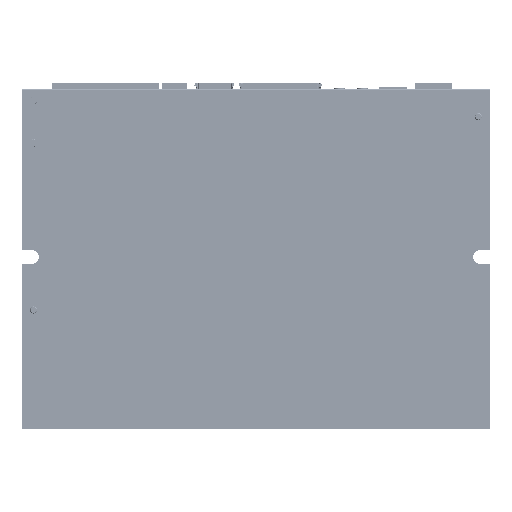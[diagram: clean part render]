
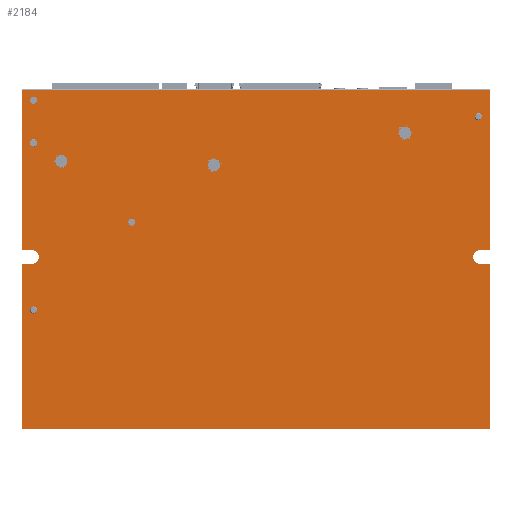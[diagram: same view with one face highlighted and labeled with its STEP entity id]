
A CAD part, front view. The second image highlights one B-rep face of the part: STEP entity #2184.
In plain terms, the highlighted planar face has unit normal (0, -1, 0).
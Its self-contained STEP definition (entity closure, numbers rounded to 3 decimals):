
#59=DIRECTION('',(0.,0.,-1.));
#60=VECTOR('',#59,58.35);
#61=CARTESIAN_POINT('',(-82.5,8.3,7.35));
#62=LINE('',#61,#60);
#150=DIRECTION('',(0.,0.,-1.));
#151=VECTOR('',#150,56.45);
#152=CARTESIAN_POINT('',(-82.5,8.3,68.5));
#153=LINE('',#152,#151);
#296=DIRECTION('',(0.,0.,-1.));
#297=VECTOR('',#296,56.45);
#298=CARTESIAN_POINT('',(82.5,8.3,68.5));
#299=LINE('',#298,#297);
#380=DIRECTION('',(0.,0.,-1.));
#381=VECTOR('',#380,58.35);
#382=CARTESIAN_POINT('',(82.5,8.3,7.35));
#383=LINE('',#382,#381);
#430=DIRECTION('',(1.,0.,0.));
#431=VECTOR('',#430,165.);
#432=CARTESIAN_POINT('',(-82.5,8.3,-51.));
#433=LINE('',#432,#431);
#498=CARTESIAN_POINT('',(78.9,8.3,9.7));
#499=DIRECTION('',(0.,1.,0.));
#500=DIRECTION('',(0.,0.,-1.));
#501=AXIS2_PLACEMENT_3D('',#498,#499,#500);
#506=DIRECTION('',(-1.,0.,0.));
#507=VECTOR('',#506,3.6);
#508=CARTESIAN_POINT('',(82.5,8.3,7.35));
#509=LINE('',#508,#507);
#513=DIRECTION('',(1.,0.,0.));
#514=VECTOR('',#513,3.6);
#515=CARTESIAN_POINT('',(-82.5,8.3,7.35));
#516=LINE('',#515,#514);
#520=CARTESIAN_POINT('',(-78.9,8.3,9.7));
#521=DIRECTION('',(0.,1.,0.));
#522=DIRECTION('',(0.,0.,1.));
#523=AXIS2_PLACEMENT_3D('',#520,#521,#522);
#528=DIRECTION('',(1.,0.,0.));
#529=VECTOR('',#528,3.6);
#530=CARTESIAN_POINT('',(-82.5,8.3,12.05));
#531=LINE('',#530,#529);
#535=DIRECTION('',(-1.,0.,0.));
#536=VECTOR('',#535,165.);
#537=CARTESIAN_POINT('',(82.5,8.3,68.5));
#538=LINE('',#537,#536);
#542=DIRECTION('',(-1.,0.,0.));
#543=VECTOR('',#542,3.6);
#544=CARTESIAN_POINT('',(82.5,8.3,12.05));
#545=LINE('',#544,#543);
#549=CARTESIAN_POINT('',(-68.6,8.3,43.5));
#550=DIRECTION('',(0.,1.,0.));
#551=DIRECTION('',(1.,0.,0.));
#552=AXIS2_PLACEMENT_3D('',#549,#550,#551);
#557=CARTESIAN_POINT('',(-68.6,8.3,43.5));
#558=DIRECTION('',(0.,1.,0.));
#559=DIRECTION('',(-1.,0.,0.));
#560=AXIS2_PLACEMENT_3D('',#557,#558,#559);
#565=CARTESIAN_POINT('',(-14.8,8.3,42.1));
#566=DIRECTION('',(0.,1.,0.));
#567=DIRECTION('',(1.,0.,0.));
#568=AXIS2_PLACEMENT_3D('',#565,#566,#567);
#573=CARTESIAN_POINT('',(-14.8,8.3,42.1));
#574=DIRECTION('',(0.,1.,0.));
#575=DIRECTION('',(-1.,0.,0.));
#576=AXIS2_PLACEMENT_3D('',#573,#574,#575);
#581=CARTESIAN_POINT('',(52.5,8.3,53.5));
#582=DIRECTION('',(0.,1.,0.));
#583=DIRECTION('',(1.,0.,0.));
#584=AXIS2_PLACEMENT_3D('',#581,#582,#583);
#589=CARTESIAN_POINT('',(52.5,8.3,53.5));
#590=DIRECTION('',(0.,1.,0.));
#591=DIRECTION('',(-1.,0.,0.));
#592=AXIS2_PLACEMENT_3D('',#589,#590,#591);
#597=CARTESIAN_POINT('',(-43.8,8.3,22.));
#598=DIRECTION('',(0.,1.,0.));
#599=DIRECTION('',(1.,0.,0.));
#600=AXIS2_PLACEMENT_3D('',#597,#598,#599);
#605=CARTESIAN_POINT('',(-43.8,8.3,22.));
#606=DIRECTION('',(0.,1.,0.));
#607=DIRECTION('',(-1.,0.,0.));
#608=AXIS2_PLACEMENT_3D('',#605,#606,#607);
#613=CARTESIAN_POINT('',(78.4,8.3,59.2));
#614=DIRECTION('',(0.,1.,0.));
#615=DIRECTION('',(1.,0.,0.));
#616=AXIS2_PLACEMENT_3D('',#613,#614,#615);
#621=CARTESIAN_POINT('',(78.4,8.3,59.2));
#622=DIRECTION('',(0.,1.,0.));
#623=DIRECTION('',(-1.,0.,0.));
#624=AXIS2_PLACEMENT_3D('',#621,#622,#623);
#629=CARTESIAN_POINT('',(-78.4,8.3,-9.));
#630=DIRECTION('',(0.,1.,0.));
#631=DIRECTION('',(1.,0.,0.));
#632=AXIS2_PLACEMENT_3D('',#629,#630,#631);
#637=CARTESIAN_POINT('',(-78.4,8.3,-9.));
#638=DIRECTION('',(0.,1.,0.));
#639=DIRECTION('',(-1.,0.,0.));
#640=AXIS2_PLACEMENT_3D('',#637,#638,#639);
#645=CARTESIAN_POINT('',(-78.4,8.3,64.9));
#646=DIRECTION('',(0.,1.,0.));
#647=DIRECTION('',(1.,0.,0.));
#648=AXIS2_PLACEMENT_3D('',#645,#646,#647);
#653=CARTESIAN_POINT('',(-78.4,8.3,64.9));
#654=DIRECTION('',(0.,1.,0.));
#655=DIRECTION('',(-1.,0.,0.));
#656=AXIS2_PLACEMENT_3D('',#653,#654,#655);
#661=CARTESIAN_POINT('',(-78.4,8.3,49.9));
#662=DIRECTION('',(0.,1.,0.));
#663=DIRECTION('',(1.,0.,0.));
#664=AXIS2_PLACEMENT_3D('',#661,#662,#663);
#669=CARTESIAN_POINT('',(-78.4,8.3,49.9));
#670=DIRECTION('',(0.,1.,0.));
#671=DIRECTION('',(-1.,0.,0.));
#672=AXIS2_PLACEMENT_3D('',#669,#670,#671);
#1636=CARTESIAN_POINT('',(-82.5,8.3,-51.));
#1637=CARTESIAN_POINT('',(82.5,8.3,-51.));
#1638=VERTEX_POINT('',#1636);
#1639=VERTEX_POINT('',#1637);
#1648=CARTESIAN_POINT('',(-82.5,8.3,68.5));
#1650=VERTEX_POINT('',#1648);
#1654=CARTESIAN_POINT('',(82.5,8.3,68.5));
#1655=VERTEX_POINT('',#1654);
#1668=CARTESIAN_POINT('',(-66.475,8.3,43.5));
#1669=CARTESIAN_POINT('',(-70.725,8.3,43.5));
#1670=VERTEX_POINT('',#1668);
#1671=VERTEX_POINT('',#1669);
#1672=CARTESIAN_POINT('',(-12.675,8.3,42.1));
#1673=CARTESIAN_POINT('',(-16.925,8.3,42.1));
#1674=VERTEX_POINT('',#1672);
#1675=VERTEX_POINT('',#1673);
#1676=CARTESIAN_POINT('',(-42.55,8.3,22.));
#1677=CARTESIAN_POINT('',(-45.05,8.3,22.));
#1678=VERTEX_POINT('',#1676);
#1679=VERTEX_POINT('',#1677);
#1688=CARTESIAN_POINT('',(54.625,8.3,53.5));
#1689=CARTESIAN_POINT('',(50.375,8.3,53.5));
#1690=VERTEX_POINT('',#1688);
#1691=VERTEX_POINT('',#1689);
#1692=CARTESIAN_POINT('',(-82.5,8.3,7.35));
#1694=VERTEX_POINT('',#1692);
#1696=CARTESIAN_POINT('',(-82.5,8.3,12.05));
#1698=VERTEX_POINT('',#1696);
#1700=CARTESIAN_POINT('',(82.5,8.3,12.05));
#1702=VERTEX_POINT('',#1700);
#1704=CARTESIAN_POINT('',(82.5,8.3,7.35));
#1706=VERTEX_POINT('',#1704);
#1716=CARTESIAN_POINT('',(78.9,8.3,7.35));
#1717=CARTESIAN_POINT('',(78.9,8.3,12.05));
#1718=VERTEX_POINT('',#1716);
#1719=VERTEX_POINT('',#1717);
#1720=CARTESIAN_POINT('',(-78.9,8.3,7.35));
#1721=VERTEX_POINT('',#1720);
#1722=CARTESIAN_POINT('',(-78.9,8.3,12.05));
#1723=VERTEX_POINT('',#1722);
#1728=CARTESIAN_POINT('',(79.425,8.3,59.2));
#1729=CARTESIAN_POINT('',(77.375,8.3,59.2));
#1730=VERTEX_POINT('',#1728);
#1731=VERTEX_POINT('',#1729);
#1736=CARTESIAN_POINT('',(-77.375,8.3,-9.));
#1737=CARTESIAN_POINT('',(-79.425,8.3,-9.));
#1738=VERTEX_POINT('',#1736);
#1739=VERTEX_POINT('',#1737);
#1740=CARTESIAN_POINT('',(-77.15,8.3,64.9));
#1741=CARTESIAN_POINT('',(-79.65,8.3,64.9));
#1742=VERTEX_POINT('',#1740);
#1743=VERTEX_POINT('',#1741);
#1760=CARTESIAN_POINT('',(-77.15,8.3,49.9));
#1761=CARTESIAN_POINT('',(-79.65,8.3,49.9));
#1762=VERTEX_POINT('',#1760);
#1763=VERTEX_POINT('',#1761);
#2110=CARTESIAN_POINT('',(-82.5,8.3,69.));
#2111=DIRECTION('',(0.,-1.,0.));
#2112=DIRECTION('',(0.,0.,-1.));
#2113=AXIS2_PLACEMENT_3D('',#2110,#2111,#2112);
#2114=PLANE('',#2113);
#2116=ORIENTED_EDGE('',*,*,#2115,.F.);
#2118=ORIENTED_EDGE('',*,*,#2117,.F.);
#2119=ORIENTED_EDGE('',*,*,#2017,.T.);
#2120=ORIENTED_EDGE('',*,*,#2063,.F.);
#2121=ORIENTED_EDGE('',*,*,#1847,.F.);
#2123=ORIENTED_EDGE('',*,*,#2122,.T.);
#2125=ORIENTED_EDGE('',*,*,#2124,.F.);
#2127=ORIENTED_EDGE('',*,*,#2126,.F.);
#2128=ORIENTED_EDGE('',*,*,#1883,.F.);
#2130=ORIENTED_EDGE('',*,*,#2129,.F.);
#2131=ORIENTED_EDGE('',*,*,#1984,.T.);
#2133=ORIENTED_EDGE('',*,*,#2132,.T.);
#2134=EDGE_LOOP('',(#2116,#2118,#2119,#2120,#2121,#2123,#2125,#2127,#2128,#2130,
#2131,#2133));
#2135=FACE_OUTER_BOUND('',#2134,.F.);
#2137=ORIENTED_EDGE('',*,*,#2136,.F.);
#2139=ORIENTED_EDGE('',*,*,#2138,.F.);
#2140=EDGE_LOOP('',(#2137,#2139));
#2141=FACE_BOUND('',#2140,.F.);
#2143=ORIENTED_EDGE('',*,*,#2142,.F.);
#2145=ORIENTED_EDGE('',*,*,#2144,.F.);
#2146=EDGE_LOOP('',(#2143,#2145));
#2147=FACE_BOUND('',#2146,.F.);
#2149=ORIENTED_EDGE('',*,*,#2148,.F.);
#2151=ORIENTED_EDGE('',*,*,#2150,.F.);
#2152=EDGE_LOOP('',(#2149,#2151));
#2153=FACE_BOUND('',#2152,.F.);
#2155=ORIENTED_EDGE('',*,*,#2154,.F.);
#2157=ORIENTED_EDGE('',*,*,#2156,.F.);
#2158=EDGE_LOOP('',(#2155,#2157));
#2159=FACE_BOUND('',#2158,.F.);
#2161=ORIENTED_EDGE('',*,*,#2160,.F.);
#2163=ORIENTED_EDGE('',*,*,#2162,.F.);
#2164=EDGE_LOOP('',(#2161,#2163));
#2165=FACE_BOUND('',#2164,.F.);
#2167=ORIENTED_EDGE('',*,*,#2166,.F.);
#2169=ORIENTED_EDGE('',*,*,#2168,.F.);
#2170=EDGE_LOOP('',(#2167,#2169));
#2171=FACE_BOUND('',#2170,.F.);
#2173=ORIENTED_EDGE('',*,*,#2172,.F.);
#2175=ORIENTED_EDGE('',*,*,#2174,.F.);
#2176=EDGE_LOOP('',(#2173,#2175));
#2177=FACE_BOUND('',#2176,.F.);
#2179=ORIENTED_EDGE('',*,*,#2178,.F.);
#2181=ORIENTED_EDGE('',*,*,#2180,.F.);
#2182=EDGE_LOOP('',(#2179,#2181));
#2183=FACE_BOUND('',#2182,.F.);
#502=CIRCLE('',#501,2.35);
#524=CIRCLE('',#523,2.35);
#553=CIRCLE('',#552,2.125);
#561=CIRCLE('',#560,2.125);
#569=CIRCLE('',#568,2.125);
#577=CIRCLE('',#576,2.125);
#585=CIRCLE('',#584,2.125);
#593=CIRCLE('',#592,2.125);
#601=CIRCLE('',#600,1.25);
#609=CIRCLE('',#608,1.25);
#617=CIRCLE('',#616,1.025);
#625=CIRCLE('',#624,1.025);
#633=CIRCLE('',#632,1.025);
#641=CIRCLE('',#640,1.025);
#649=CIRCLE('',#648,1.25);
#657=CIRCLE('',#656,1.25);
#665=CIRCLE('',#664,1.25);
#673=CIRCLE('',#672,1.25);
#1847=EDGE_CURVE('',#1694,#1638,#62,.T.);
#1883=EDGE_CURVE('',#1650,#1698,#153,.T.);
#1984=EDGE_CURVE('',#1655,#1702,#299,.T.);
#2017=EDGE_CURVE('',#1706,#1639,#383,.T.);
#2063=EDGE_CURVE('',#1638,#1639,#433,.T.);
#2115=EDGE_CURVE('',#1718,#1719,#502,.T.);
#2117=EDGE_CURVE('',#1706,#1718,#509,.T.);
#2122=EDGE_CURVE('',#1694,#1721,#516,.T.);
#2124=EDGE_CURVE('',#1723,#1721,#524,.T.);
#2126=EDGE_CURVE('',#1698,#1723,#531,.T.);
#2129=EDGE_CURVE('',#1655,#1650,#538,.T.);
#2132=EDGE_CURVE('',#1702,#1719,#545,.T.);
#2136=EDGE_CURVE('',#1670,#1671,#553,.T.);
#2138=EDGE_CURVE('',#1671,#1670,#561,.T.);
#2142=EDGE_CURVE('',#1674,#1675,#569,.T.);
#2144=EDGE_CURVE('',#1675,#1674,#577,.T.);
#2148=EDGE_CURVE('',#1690,#1691,#585,.T.);
#2150=EDGE_CURVE('',#1691,#1690,#593,.T.);
#2154=EDGE_CURVE('',#1678,#1679,#601,.T.);
#2156=EDGE_CURVE('',#1679,#1678,#609,.T.);
#2160=EDGE_CURVE('',#1730,#1731,#617,.T.);
#2162=EDGE_CURVE('',#1731,#1730,#625,.T.);
#2166=EDGE_CURVE('',#1738,#1739,#633,.T.);
#2168=EDGE_CURVE('',#1739,#1738,#641,.T.);
#2172=EDGE_CURVE('',#1742,#1743,#649,.T.);
#2174=EDGE_CURVE('',#1743,#1742,#657,.T.);
#2178=EDGE_CURVE('',#1762,#1763,#665,.T.);
#2180=EDGE_CURVE('',#1763,#1762,#673,.T.);
#2184=ADVANCED_FACE('',(#2135,#2141,#2147,#2153,#2159,#2165,#2171,#2177,#2183),
#2114,.T.);
